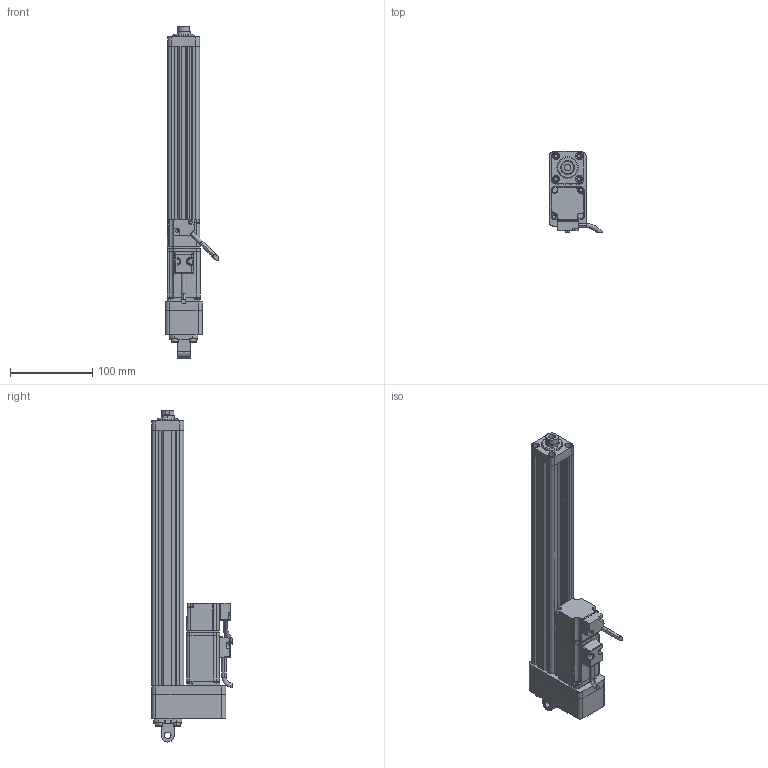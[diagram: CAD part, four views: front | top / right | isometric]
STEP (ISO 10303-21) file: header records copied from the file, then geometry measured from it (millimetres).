
FILE_DESCRIPTION (( 'STEP AP214' ), '1' );
FILE_NAME ('039-S250-D02-B-M5-C2-2.STEP', '2021-03-02T05:03:52', ( '' ), ( '' ), 'SwSTEP 2.0', 'SolidWorks 2018', '' );
FILE_SCHEMA (( 'AUTOMOTIVE_DESIGN' ));
Length unit declared in the file: millimetre
Products named in the file (8): CMC039-FL; CMC039-LJB; 039-S250-D02-B-M5-C2-2; CMC039-GT; F-ACE20CA_ACE_; CMC039-HXT; CMC039-DT; ECMA-CX0401ES-40框號系列機種-100W低慣量系列
Assembly tree (7 placements, depth 2):
  039-S250-D02-B-M5-C2-2
    CMC039-GT
    CMC039-LJB
    CMC039-FL
    CMC039-DT
    ECMA-CX0401ES-40框號系列機種-100W低慣量系列
    CMC039-HXT
    F-ACE20CA_ACE_
Bounding box: 65.34 x 97.89 x 403 mm (x, y, z)
Volume: 544563.7 mm3; surface area: 181124.8 mm2
Topology: 7 solids, 15 shells, 762 faces, 1992 edges, 1249 vertices
Faces by surface type: cylinder 321, plane 302, bspline 92, cone 47
Entity records: 29754 total; most frequent: CARTESIAN_POINT 11639, ORIENTED_EDGE 3918, DIRECTION 3319, EDGE_CURVE 1959, VERTEX_POINT 1249, AXIS2_PLACEMENT_3D 1176, LINE 967, VECTOR 967
